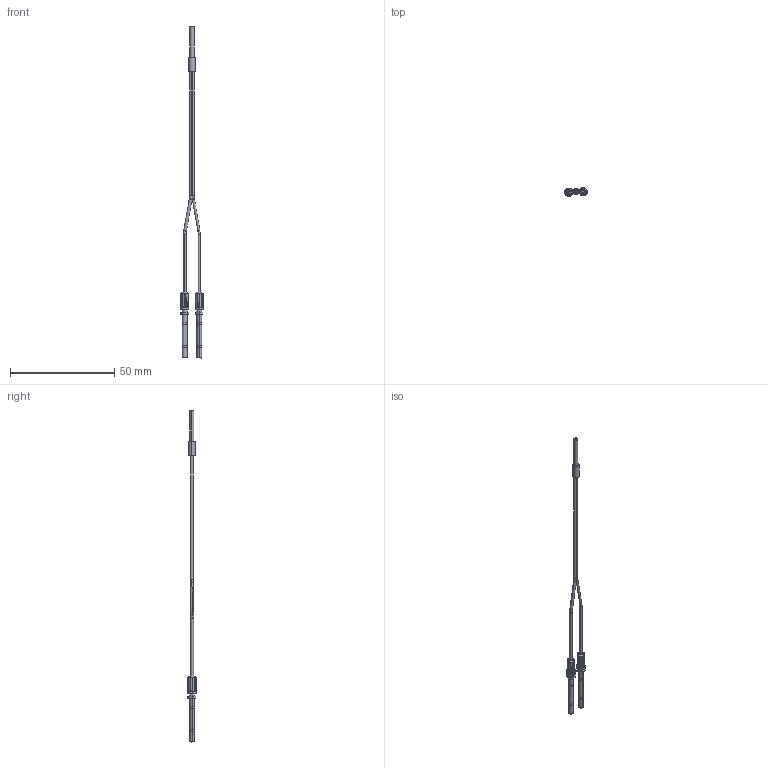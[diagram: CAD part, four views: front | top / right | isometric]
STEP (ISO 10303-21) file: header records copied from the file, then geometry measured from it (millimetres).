
FILE_DESCRIPTION (( 'STEP AP214' ), '1' );
FILE_NAME ('FDC-320-F.STEP', '2023-05-25T02:23:17', ( '' ), ( '' ), 'SwSTEP 2.0', 'SolidWorks 2018', '' );
FILE_SCHEMA (( 'AUTOMOTIVE_DESIGN' ));
Length unit declared in the file: millimetre
Products named in the file (1): FDC-320-F
Bounding box: 10.94 x 4.18 x 159.01 mm (x, y, z)
Volume: 681.5 mm3; surface area: 1914.5 mm2
Topology: 3 solids, 3 shells, 225 faces, 505 edges, 300 vertices
Faces by surface type: plane 121, cylinder 70, torus 20, cone 14
Entity records: 6740 total; most frequent: CARTESIAN_POINT 1344, DIRECTION 1096, ORIENTED_EDGE 1010, EDGE_CURVE 505, AXIS2_PLACEMENT_3D 464, VERTEX_POINT 300, EDGE_LOOP 243, CIRCLE 238
